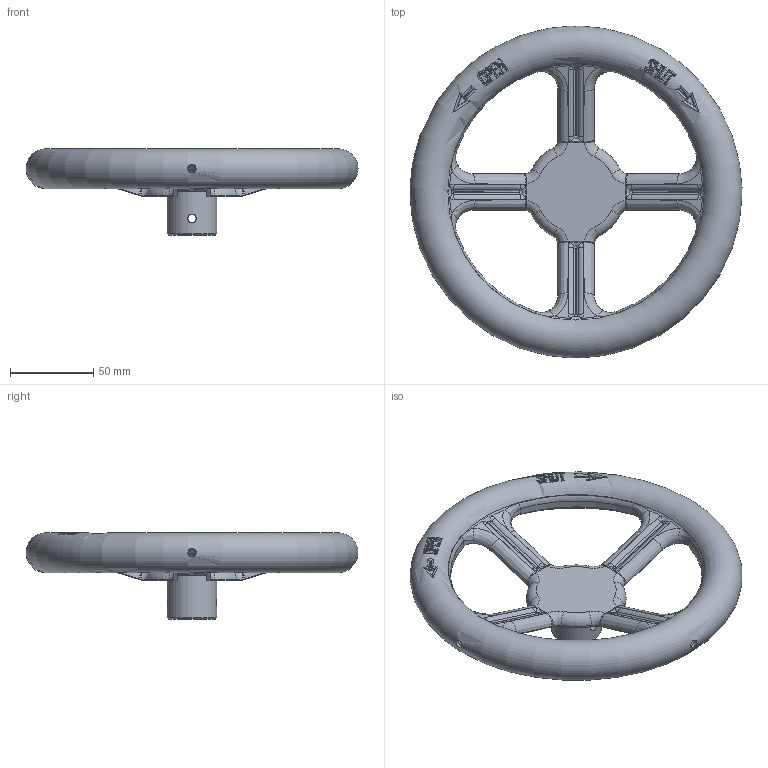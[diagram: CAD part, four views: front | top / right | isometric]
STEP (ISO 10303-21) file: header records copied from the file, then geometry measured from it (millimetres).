
FILE_DESCRIPTION( ( 'Unknown' ), '1' );
FILE_NAME( 'M:/Current Drawings/0000/MODELS 3D FOR CUSTOMERS/PS200-15.stp', 'Unknown', ( 'Unknown' ), ( 'Unknown' ), 'PSStep 10.1', 'Unknown', ' ' );
FILE_SCHEMA( ( 'automotive_design' ) );
Length unit declared in the file: millimetre
Products named in the file (1): PS200-15 Bush
Bounding box: 199.94 x 199.94 x 52 mm (x, y, z)
Volume: 92942.4 mm3; surface area: 84567.1 mm2
Topology: 1 solids, 1 shells, 543 faces, 1445 edges, 900 vertices
Faces by surface type: bspline 268, plane 100, cylinder 75, torus 58, cone 22, extrusion 11, sphere 9
Full cylindrical faces by diameter (mm): 5 x4, 5.1 x2, 15 x1, 30 x1, 176 x1
Entity records: 67146 total; most frequent: CARTESIAN_POINT 51784, ORIENTED_EDGE 2800, DIRECTION 1596, EDGE_CURVE 1400, VERTEX_POINT 882, B_SPLINE_CURVE_WITH_KNOTS 780, AXIS2_PLACEMENT_3D 689, EDGE_LOOP 586
